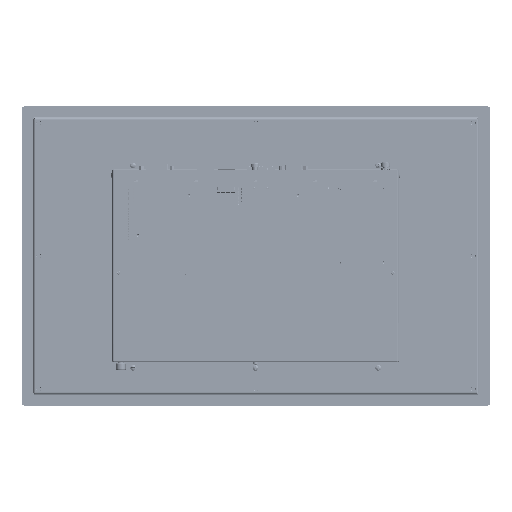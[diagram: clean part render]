
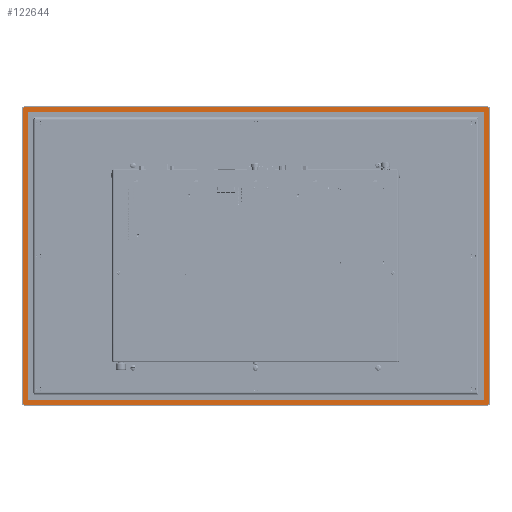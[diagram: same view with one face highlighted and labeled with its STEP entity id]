
A CAD part, front view. The second image highlights one B-rep face of the part: STEP entity #122644.
In plain terms, the highlighted planar face has unit normal (0, -1, 0).
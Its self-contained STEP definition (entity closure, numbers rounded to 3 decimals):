
#5685 = CARTESIAN_POINT ( 'NONE',  ( -243., 0., -153. ) ) ;
#7210 = CARTESIAN_POINT ( 'NONE',  ( 247., 0., -159. ) ) ;
#7243 = DIRECTION ( 'NONE',  ( 0., -1., 0. ) ) ;
#13704 = VERTEX_POINT ( 'NONE', #679053 ) ;
#28198 = FACE_BOUND ( 'NONE', #699766, .T. ) ;
#45919 = CARTESIAN_POINT ( 'NONE',  ( -247., 0., 157. ) ) ;
#46106 = CARTESIAN_POINT ( 'NONE',  ( 247., 0., 157. ) ) ;
#60251 = DIRECTION ( 'NONE',  ( 1., 0., 0. ) ) ;
#65883 = DIRECTION ( 'NONE',  ( -1., 0., 0. ) ) ;
#68534 = DIRECTION ( 'NONE',  ( 0., -1., 0. ) ) ;
#68911 = DIRECTION ( 'NONE',  ( 0., 0., -1. ) ) ;
#81561 = CARTESIAN_POINT ( 'NONE',  ( 244., 0., 153. ) ) ;
#88344 = CARTESIAN_POINT ( 'NONE',  ( -243., 0., -154. ) ) ;
#102824 = VERTEX_POINT ( 'NONE', #163145 ) ;
#104693 = EDGE_CURVE ( 'NONE', #246887, #753382, #448192, .T. ) ;
#109499 = VERTEX_POINT ( 'NONE', #129924 ) ;
#114166 = ORIENTED_EDGE ( 'NONE', *, *, #254716, .F. ) ;
#115686 = VECTOR ( 'NONE', #68911, 1000. ) ;
#115785 = CARTESIAN_POINT ( 'NONE',  ( -249., 0., -157. ) ) ;
#117473 = DIRECTION ( 'NONE',  ( 0., 0., -1. ) ) ;
#118137 = ORIENTED_EDGE ( 'NONE', *, *, #245283, .F. ) ;
#118550 = DIRECTION ( 'NONE',  ( 1., 0., 0. ) ) ;
#121894 = CARTESIAN_POINT ( 'NONE',  ( 244., 0., -153. ) ) ;
#122644 = ADVANCED_FACE ( 'NONE', ( #28198, #801628 ), #239055, .F. ) ;
#129924 = CARTESIAN_POINT ( 'NONE',  ( 247., 0., -159. ) ) ;
#130879 = EDGE_CURVE ( 'NONE', #211998, #546687, #255614, .T. ) ;
#131303 = CARTESIAN_POINT ( 'NONE',  ( 243., 0., 154. ) ) ;
#143565 = VECTOR ( 'NONE', #747770, 1000. ) ;
#145334 = CIRCLE ( 'NONE', #154776, 2. ) ;
#150834 = VERTEX_POINT ( 'NONE', #283887 ) ;
#154776 = AXIS2_PLACEMENT_3D ( 'NONE', #267777, #650600, #275875 ) ;
#161835 = AXIS2_PLACEMENT_3D ( 'NONE', #244486, #310230, #118550 ) ;
#163145 = CARTESIAN_POINT ( 'NONE',  ( -247., 0., -159. ) ) ;
#176524 = DIRECTION ( 'NONE',  ( 0., -1., 0. ) ) ;
#178425 = CIRCLE ( 'NONE', #655095, 2. ) ;
#211998 = VERTEX_POINT ( 'NONE', #694378 ) ;
#214930 = CARTESIAN_POINT ( 'NONE',  ( -249., 0., -157. ) ) ;
#221995 = EDGE_CURVE ( 'NONE', #654825, #150834, #569309, .T. ) ;
#233943 = ORIENTED_EDGE ( 'NONE', *, *, #235610, .F. ) ;
#234812 = VERTEX_POINT ( 'NONE', #261590 ) ;
#235610 = EDGE_CURVE ( 'NONE', #362079, #333368, #803246, .T. ) ;
#236909 = EDGE_LOOP ( 'NONE', ( #766781, #118137, #378684, #508877, #701399, #259221, #510418, #114166 ) ) ;
#239055 = PLANE ( 'NONE',  #161835 ) ;
#240093 = DIRECTION ( 'NONE',  ( -1., 0., 0. ) ) ;
#241666 = LINE ( 'NONE', #115785, #143565 ) ;
#244486 = CARTESIAN_POINT ( 'NONE',  ( 0., 0., 0. ) ) ;
#244899 = CARTESIAN_POINT ( 'NONE',  ( -244., 0., -153. ) ) ;
#245283 = EDGE_CURVE ( 'NONE', #234812, #109499, #178425, .T. ) ;
#246887 = VERTEX_POINT ( 'NONE', #491784 ) ;
#247046 = EDGE_CURVE ( 'NONE', #109499, #102824, #508123, .T. ) ;
#249785 = CARTESIAN_POINT ( 'NONE',  ( 249., 0., 157. ) ) ;
#254716 = EDGE_CURVE ( 'NONE', #102824, #347123, #145334, .T. ) ;
#255614 = CIRCLE ( 'NONE', #347672, 2. ) ;
#255845 = DIRECTION ( 'NONE',  ( 0., 0., 1. ) ) ;
#259221 = ORIENTED_EDGE ( 'NONE', *, *, #130879, .F. ) ;
#261590 = CARTESIAN_POINT ( 'NONE',  ( 249., 0., -157. ) ) ;
#267777 = CARTESIAN_POINT ( 'NONE',  ( -247., 0., -157. ) ) ;
#275875 = DIRECTION ( 'NONE',  ( 0., 0., -1. ) ) ;
#282350 = VERTEX_POINT ( 'NONE', #349740 ) ;
#283887 = CARTESIAN_POINT ( 'NONE',  ( -243., 0., 154. ) ) ;
#288755 = ORIENTED_EDGE ( 'NONE', *, *, #704009, .F. ) ;
#289605 = DIRECTION ( 'NONE',  ( 1., 0., 0. ) ) ;
#295494 = CARTESIAN_POINT ( 'NONE',  ( -244., 0., 153. ) ) ;
#298015 = VERTEX_POINT ( 'NONE', #88344 ) ;
#310230 = DIRECTION ( 'NONE',  ( 0., 1., 0. ) ) ;
#313845 = DIRECTION ( 'NONE',  ( 0., 0., -1. ) ) ;
#333368 = VERTEX_POINT ( 'NONE', #244899 ) ;
#335061 = CIRCLE ( 'NONE', #557886, 1. ) ;
#336564 = CIRCLE ( 'NONE', #700358, 1. ) ;
#347123 = VERTEX_POINT ( 'NONE', #214930 ) ;
#347672 = AXIS2_PLACEMENT_3D ( 'NONE', #45919, #360696, #240093 ) ;
#349740 = CARTESIAN_POINT ( 'NONE',  ( 243., 0., -154. ) ) ;
#350155 = DIRECTION ( 'NONE',  ( 0., 0., 1. ) ) ;
#360696 = DIRECTION ( 'NONE',  ( 0., 1., 0. ) ) ;
#362079 = VERTEX_POINT ( 'NONE', #459793 ) ;
#370324 = LINE ( 'NONE', #249785, #115686 ) ;
#378684 = ORIENTED_EDGE ( 'NONE', *, *, #403940, .F. ) ;
#379283 = EDGE_CURVE ( 'NONE', #150834, #362079, #336564, .T. ) ;
#397474 = AXIS2_PLACEMENT_3D ( 'NONE', #5685, #68534, #65883 ) ;
#397791 = CARTESIAN_POINT ( 'NONE',  ( 249., 0., 157. ) ) ;
#403940 = EDGE_CURVE ( 'NONE', #753382, #234812, #370324, .T. ) ;
#405881 = LINE ( 'NONE', #121894, #767768 ) ;
#435519 = CARTESIAN_POINT ( 'NONE',  ( 247., 0., -157. ) ) ;
#437411 = CARTESIAN_POINT ( 'NONE',  ( 243., 0., 154. ) ) ;
#440081 = DIRECTION ( 'NONE',  ( -1., 0., 0. ) ) ;
#448192 = CIRCLE ( 'NONE', #575181, 2. ) ;
#449073 = ORIENTED_EDGE ( 'NONE', *, *, #545396, .F. ) ;
#453503 = DIRECTION ( 'NONE',  ( 1., 0., 0. ) ) ;
#454211 = LINE ( 'NONE', #787581, #688656 ) ;
#459793 = CARTESIAN_POINT ( 'NONE',  ( -244., 0., 153. ) ) ;
#466851 = VERTEX_POINT ( 'NONE', #81561 ) ;
#491784 = CARTESIAN_POINT ( 'NONE',  ( 247., 0., 159. ) ) ;
#492790 = CIRCLE ( 'NONE', #809913, 1. ) ;
#508123 = LINE ( 'NONE', #7210, #556730 ) ;
#508877 = ORIENTED_EDGE ( 'NONE', *, *, #104693, .F. ) ;
#510418 = ORIENTED_EDGE ( 'NONE', *, *, #799450, .F. ) ;
#545396 = EDGE_CURVE ( 'NONE', #282350, #13704, #492790, .T. ) ;
#546687 = VERTEX_POINT ( 'NONE', #791951 ) ;
#556730 = VECTOR ( 'NONE', #811840, 1000. ) ;
#557886 = AXIS2_PLACEMENT_3D ( 'NONE', #686051, #568233, #565685 ) ;
#561049 = DIRECTION ( 'NONE',  ( 0., 1., 0. ) ) ;
#562103 = ORIENTED_EDGE ( 'NONE', *, *, #794800, .F. ) ;
#565685 = DIRECTION ( 'NONE',  ( 1., 0., 0. ) ) ;
#568233 = DIRECTION ( 'NONE',  ( 0., -1., 0. ) ) ;
#569309 = LINE ( 'NONE', #437411, #765728 ) ;
#575181 = AXIS2_PLACEMENT_3D ( 'NONE', #46106, #785074, #350155 ) ;
#593191 = CIRCLE ( 'NONE', #397474, 1. ) ;
#645397 = ORIENTED_EDGE ( 'NONE', *, *, #700712, .F. ) ;
#650600 = DIRECTION ( 'NONE',  ( 0., 1., 0. ) ) ;
#654825 = VERTEX_POINT ( 'NONE', #131303 ) ;
#655095 = AXIS2_PLACEMENT_3D ( 'NONE', #435519, #561049, #60251 ) ;
#657157 = VECTOR ( 'NONE', #453503, 1000. ) ;
#679053 = CARTESIAN_POINT ( 'NONE',  ( 244., 0., -153. ) ) ;
#682784 = CARTESIAN_POINT ( 'NONE',  ( -243., 0., 153. ) ) ;
#686051 = CARTESIAN_POINT ( 'NONE',  ( 243., 0., 153. ) ) ;
#688656 = VECTOR ( 'NONE', #289605, 1000. ) ;
#694378 = CARTESIAN_POINT ( 'NONE',  ( -249., 0., 157. ) ) ;
#699766 = EDGE_LOOP ( 'NONE', ( #751586, #233943, #707876, #729621, #288755, #562103, #449073, #645397 ) ) ;
#700358 = AXIS2_PLACEMENT_3D ( 'NONE', #682784, #176524, #745641 ) ;
#700712 = EDGE_CURVE ( 'NONE', #298015, #282350, #764928, .T. ) ;
#701399 = ORIENTED_EDGE ( 'NONE', *, *, #755246, .F. ) ;
#704009 = EDGE_CURVE ( 'NONE', #466851, #654825, #335061, .T. ) ;
#705066 = VECTOR ( 'NONE', #117473, 1000. ) ;
#707876 = ORIENTED_EDGE ( 'NONE', *, *, #379283, .F. ) ;
#729621 = ORIENTED_EDGE ( 'NONE', *, *, #221995, .F. ) ;
#745641 = DIRECTION ( 'NONE',  ( 0., 0., 1. ) ) ;
#747770 = DIRECTION ( 'NONE',  ( 0., 0., 1. ) ) ;
#751586 = ORIENTED_EDGE ( 'NONE', *, *, #760351, .F. ) ;
#753382 = VERTEX_POINT ( 'NONE', #397791 ) ;
#755246 = EDGE_CURVE ( 'NONE', #546687, #246887, #454211, .T. ) ;
#759736 = CARTESIAN_POINT ( 'NONE',  ( 243., 0., -153. ) ) ;
#760351 = EDGE_CURVE ( 'NONE', #333368, #298015, #593191, .T. ) ;
#764928 = LINE ( 'NONE', #770749, #657157 ) ;
#765728 = VECTOR ( 'NONE', #440081, 1000. ) ;
#766781 = ORIENTED_EDGE ( 'NONE', *, *, #247046, .F. ) ;
#767768 = VECTOR ( 'NONE', #255845, 1000. ) ;
#770749 = CARTESIAN_POINT ( 'NONE',  ( -243., 0., -154. ) ) ;
#785074 = DIRECTION ( 'NONE',  ( 0., 1., 0. ) ) ;
#787581 = CARTESIAN_POINT ( 'NONE',  ( -247., 0., 159. ) ) ;
#791951 = CARTESIAN_POINT ( 'NONE',  ( -247., 0., 159. ) ) ;
#794800 = EDGE_CURVE ( 'NONE', #13704, #466851, #405881, .T. ) ;
#799450 = EDGE_CURVE ( 'NONE', #347123, #211998, #241666, .T. ) ;
#801628 = FACE_OUTER_BOUND ( 'NONE', #236909, .T. ) ;
#803246 = LINE ( 'NONE', #295494, #705066 ) ;
#809913 = AXIS2_PLACEMENT_3D ( 'NONE', #759736, #7243, #313845 ) ;
#811840 = DIRECTION ( 'NONE',  ( -1., 0., 0. ) ) ;
